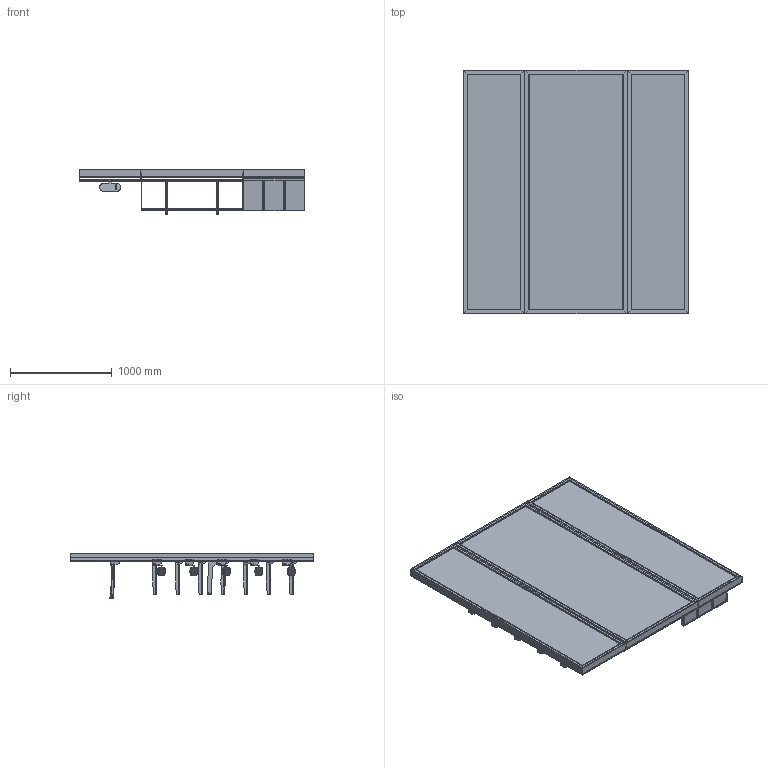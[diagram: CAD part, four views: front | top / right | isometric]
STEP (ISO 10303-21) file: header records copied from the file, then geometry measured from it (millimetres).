
FILE_DESCRIPTION (( 'STEP AP203' ), '1' );
FILE_NAME ('High-Capacity Flagship Fashion Display Wall (Set 2).STEP', '2026-03-31T14:40:52', ( '' ), ( '' ), 'SwSTEP 2.0', 'SolidWorks 2025', '' );
FILE_SCHEMA (( 'CONFIG_CONTROL_DESIGN' ));
Length unit declared in the file: millimetre
Products named in the file (33): 365-01-GA01_2; 0001-31-103.STEP; 0001-31-130.STEP; 0001-31-100.STEP; Heavy-Duty Single Clothing Display Wall (Config 2)_Assem7; 0001-31-SA27 - Forward Facing Arm_Assem11; 365-01-08_默认; 0001-31-SA26 - 1005W Rear support Bar_Assem8; 0001-31-110.STEP; 0001-31-SA25 - 1005W Side Facing D Rail_Assem9; 0001-31-104.STEP; 0001-31-SA26 - 1005W Rear support Bar.STEP; 365-01-10_默认; 365-01-01_默认; Single Illuminated Cap & Hat Retail Display_Assem5; 365-01-05_默认; 0001-31-GA10 - 1005W Slotted upbright; 365-01-04_默认; 0001-31-102.STEP; 0001-31-131.STEP; 0001-31-112.STEP; High-Capacity Flagship Fashion Display Wall (Set 2); 0001-31-SA25 - 1005W Side Facing D Rail.STEP; 0001-31-SA23 - 610W Rear Support Bar_Assem6; 0001-31-GA01 - 610W Slotted Upright; 0001-31-SA23 - 610W Rear Support Bar.STEP; 365-01-03_默认; 373-01-GA01; 365-01-06_默认; 365-01-07_默认; Narrow Angled Footwear Retail Display Wall_Assem13; 0001-31-SA27 - Forward Facing Arm.STEP; 365-01-02_默认
Assembly tree (56 placements, depth 5):
  High-Capacity Flagship Fashion Display Wall (Set 2)
    Single Illuminated Cap & Hat Retail Display_Assem5
      0001-31-GA01 - 610W Slotted Upright
      365-01-GA01_2  x7
        365-01-01_默认
        365-01-02_默认
        365-01-03_默认
        365-01-04_默认
        365-01-05_默认
        365-01-06_默认
        365-01-07_默认
        365-01-08_默认
        365-01-10_默认
    Heavy-Duty Single Clothing Display Wall (Config 2)_Assem7
      0001-31-GA10 - 1005W Slotted upbright
      0001-31-SA27 - Forward Facing Arm_Assem11  x2
        0001-31-SA27 - Forward Facing Arm.STEP
          0001-31-104.STEP
          0001-31-112.STEP
          0001-31-110.STEP
      0001-31-SA25 - 1005W Side Facing D Rail_Assem9
        0001-31-SA25 - 1005W Side Facing D Rail.STEP
          0001-31-100.STEP  x2
          0001-31-130.STEP
      0001-31-SA26 - 1005W Rear support Bar_Assem8
        0001-31-SA26 - 1005W Rear support Bar.STEP
          0001-31-103.STEP  x2
          0001-31-131.STEP
    Narrow Angled Footwear Retail Display Wall_Assem13
      0001-31-GA01 - 610W Slotted Upright
      0001-31-SA23 - 610W Rear Support Bar_Assem6  x5
        0001-31-SA23 - 610W Rear Support Bar.STEP
          0001-31-102.STEP
          0001-31-103.STEP  x2
      373-01-GA01  x5
Bounding box: 2225.24 x 2400 x 436.21 mm (x, y, z)
Volume: 25190338.6 mm3; surface area: 34546407.3 mm2
Topology: 141 solids, 141 shells, 3863 faces, 11240 edges, 7368 vertices
Faces by surface type: plane 3025, cylinder 800, bspline 38
Entity records: 53444 total; most frequent: CARTESIAN_POINT 9794, ORIENTED_EDGE 8926, DIRECTION 7255, EDGE_CURVE 4463, VECTOR 4073, LINE 4073, VERTEX_POINT 2954, EDGE_LOOP 1609
